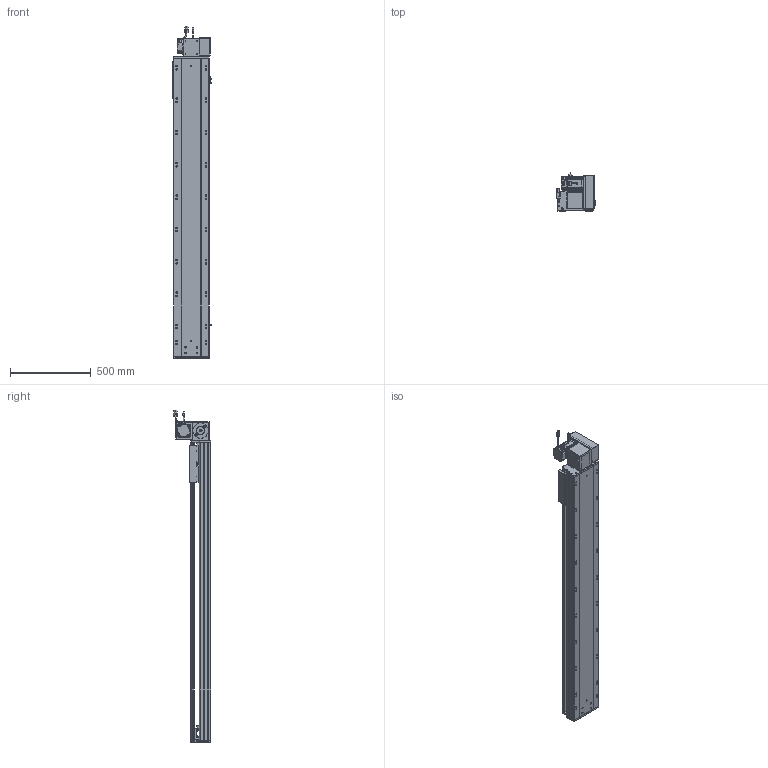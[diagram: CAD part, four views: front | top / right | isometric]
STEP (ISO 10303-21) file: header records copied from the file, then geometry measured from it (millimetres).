
FILE_DESCRIPTION (( 'STEP AP203' ), '1' );
FILE_NAME ('RY220-T-300-UR.SLDASM_1500.step', '2022-07-25T08:44:01', ( '' ), ( '' ), 'SwSTEP 2.0', 'SolidWorks 2016', '' );
FILE_SCHEMA (( 'CONFIG_CONTROL_DESIGN' ));
Length unit declared in the file: millimetre
Products named in the file (14): 怢湛750W_ECMA-CX0807ES; RY220-T-蛌殏萇儂假蚾啣(750W); RY220-T-300-奻裔啣_1500; 110A-T-肮祭謫釱傷裔; RY220翋肮祭謫釱; RY220-俋离672覜茼んえ; 覜茼ん672; 滅袉蝶18-15; RY220-T菁釱-300_1500; RY220-T-300-UR.SLDASM_1500; RY220-T-湍謫欶(鍼踢); RY220翋肮祭謫裔啣; RY220圉猾敕々湍臏賑輸; RY220-同步轮副支撑座6304×2
Assembly tree (18 placements, depth 2):
  RY220-T-300-UR.SLDASM_1500
    RY220-T菁釱-300_1500
    RY220翋肮祭謫釱
    覜茼ん672  x3
    RY220圉猾敕々湍臏賑輸
    RY220-T-300-奻裔啣_1500
    RY220-俋离672覜茼んえ
    滅袉蝶18-15  x3
    RY220翋肮祭謫裔啣  x2
    110A-T-肮祭謫釱傷裔
    怢湛750W_ECMA-CX0807ES
    RY220-T-湍謫欶(鍼踢)
    RY220-T-蛌殏萇儂假蚾啣(750W)
    RY220-同步轮副支撑座6304×2
Bounding box: 238.7 x 231.74 x 2053.27 mm (x, y, z)
Volume: 15494489.2 mm3; surface area: 4635317 mm2
Topology: 19 solids, 19 shells, 2730 faces, 7539 edges, 4766 vertices
Faces by surface type: cylinder 1298, plane 1069, cone 281, bspline 56, sphere 16, torus 10
Entity records: 90915 total; most frequent: CARTESIAN_POINT 25863, ORIENTED_EDGE 13498, DIRECTION 12832, EDGE_CURVE 6749, AXIS2_PLACEMENT_3D 4564, VERTEX_POINT 4390, LINE 3704, VECTOR 3704
